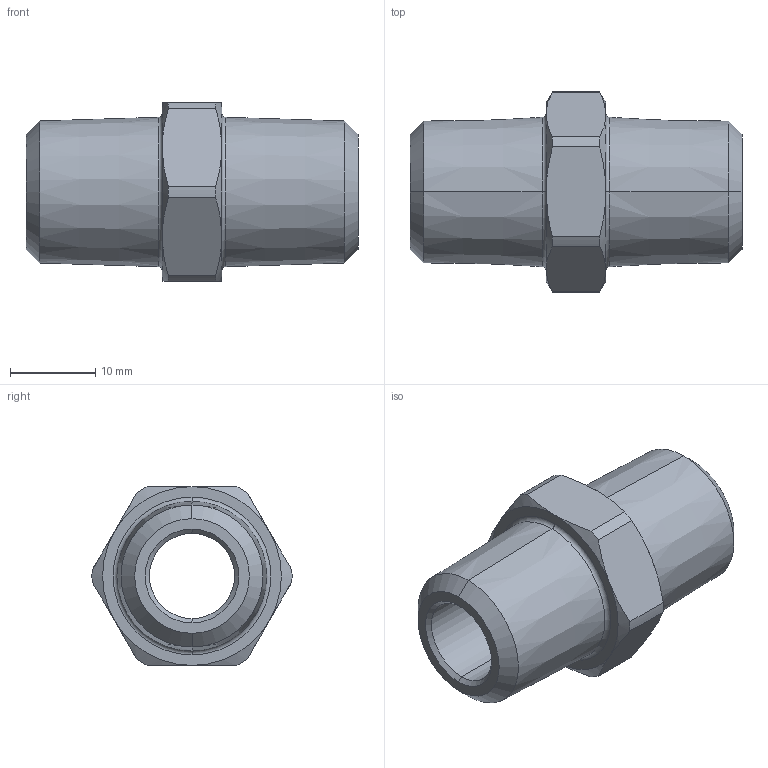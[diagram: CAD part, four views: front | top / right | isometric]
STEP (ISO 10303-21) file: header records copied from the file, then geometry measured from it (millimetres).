
FILE_DESCRIPTION (( 'STEP AP203' ), '1' );
FILE_NAME ('ﾍﾂﾍ01Nﾍ.STEP', '2019-06-05T12:26:07', ( '' ), ( '' ), 'SwSTEP 2.0', 'SolidWorks 2012', '' );
FILE_SCHEMA (( 'CONFIG_CONTROL_DESIGN' ));
Length unit declared in the file: millimetre
Products named in the file (1): ﾍﾂﾍ01Nﾍ
Bounding box: 39 x 23.5 x 21 mm (x, y, z)
Volume: 6624.5 mm3; surface area: 3958.5 mm2
Topology: 1 solids, 1 shells, 52 faces, 114 edges, 68 vertices
Faces by surface type: cone 24, cylinder 12, plane 12, torus 4
Entity records: 1611 total; most frequent: CARTESIAN_POINT 387, DIRECTION 256, ORIENTED_EDGE 228, EDGE_CURVE 114, AXIS2_PLACEMENT_3D 113, VERTEX_POINT 68, CIRCLE 60, EDGE_LOOP 58
